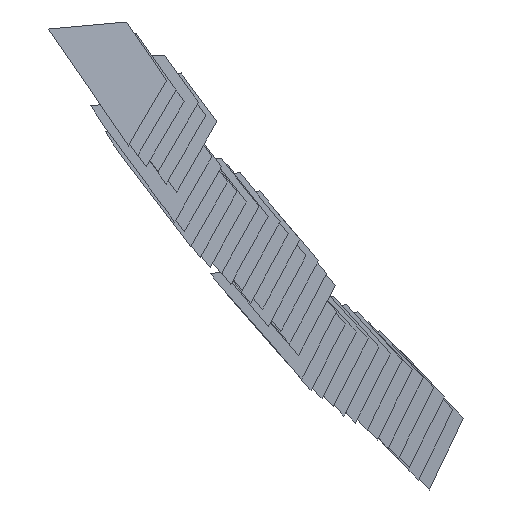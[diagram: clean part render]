
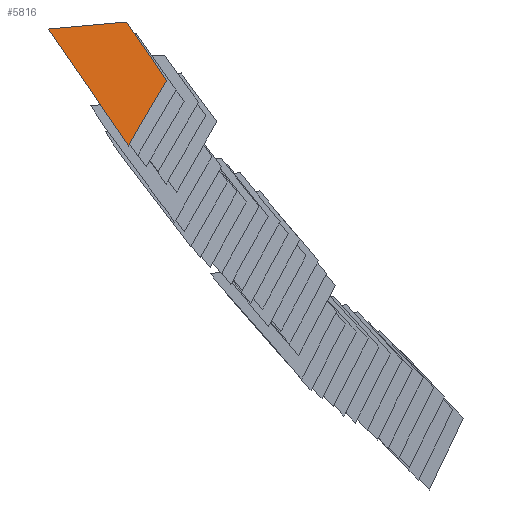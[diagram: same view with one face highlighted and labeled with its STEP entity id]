
A CAD part, front view. The second image highlights one B-rep face of the part: STEP entity #5816.
In plain terms, the highlighted free-form (B-spline) face has degree [1, 1] with [2, 2] control points.
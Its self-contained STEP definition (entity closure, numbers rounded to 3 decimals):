
#5816 = ADVANCED_FACE('',(#5817),#5830,.T.);
#5817 = FACE_BOUND('',#5818,.T.);
#5818 = EDGE_LOOP('',(#5819,#5840,#5854,#5868,#5882,#5896,#5910,#5924,
    #5938,#5952));
#5819 = ORIENTED_EDGE('',*,*,#5820,.T.);
#5820 = EDGE_CURVE('',#5821,#5823,#5825,.T.);
#5821 = VERTEX_POINT('',#5822);
#5822 = CARTESIAN_POINT('',(1093.617,-1568.996,
    1044.043));
#5823 = VERTEX_POINT('',#5824);
#5824 = CARTESIAN_POINT('',(1095.538,-1570.137,
    1041.242));
#5825 = SURFACE_CURVE('',#5826,(#5829),.PCURVE_S1.);
#5826 = B_SPLINE_CURVE_WITH_KNOTS('',1,(#5827,#5828),.UNSPECIFIED.,.F.,
  .F.,(2,2),(0.,3.583),.PIECEWISE_BEZIER_KNOTS.);
#5827 = CARTESIAN_POINT('',(1093.617,-1568.996,
    1044.043));
#5828 = CARTESIAN_POINT('',(1095.538,-1570.137,
    1041.242));
#5829 = PCURVE('',#5830,#5835);
#5830 = B_SPLINE_SURFACE_WITH_KNOTS('',1,1,(
    (#5831,#5832)
    ,(#5833,#5834
    )),.UNSPECIFIED.,.F.,.F.,.F.,(2,2),(2,2),(-5.385,
    3.739),(-3.523,3.807),
  .PIECEWISE_BEZIER_KNOTS.);
#5831 = CARTESIAN_POINT('',(1089.953,-1567.788,
    1046.116));
#5832 = CARTESIAN_POINT('',(1086.099,-1568.976,
    1039.996));
#5833 = CARTESIAN_POINT('',(1097.587,-1570.305,
    1041.796));
#5834 = CARTESIAN_POINT('',(1093.732,-1571.493,
    1035.676));
#5835 = DEFINITIONAL_REPRESENTATION('',(#5836),#5839);
#5836 = B_SPLINE_CURVE_WITH_KNOTS('',1,(#5837,#5838),.UNSPECIFIED.,.F.,
  .F.,(2,2),(0.,3.583),.PIECEWISE_BEZIER_KNOTS.);
#5837 = CARTESIAN_POINT('',(-1.006,-3.523));
#5838 = CARTESIAN_POINT('',(2.241,-2.01));
#5839 = ( GEOMETRIC_REPRESENTATION_CONTEXT(2) 
PARAMETRIC_REPRESENTATION_CONTEXT() REPRESENTATION_CONTEXT('2D SPACE',''
  ) );
#5840 = ORIENTED_EDGE('',*,*,#5841,.T.);
#5841 = EDGE_CURVE('',#5823,#5842,#5844,.T.);
#5842 = VERTEX_POINT('',#5843);
#5843 = CARTESIAN_POINT('',(1095.574,-1570.159,
    1041.188));
#5844 = SURFACE_CURVE('',#5845,(#5848),.PCURVE_S1.);
#5845 = B_SPLINE_CURVE_WITH_KNOTS('',1,(#5846,#5847),.UNSPECIFIED.,.F.,
  .F.,(2,2),(0.,0.069),.PIECEWISE_BEZIER_KNOTS.);
#5846 = CARTESIAN_POINT('',(1095.538,-1570.137,
    1041.242));
#5847 = CARTESIAN_POINT('',(1095.574,-1570.159,
    1041.188));
#5848 = PCURVE('',#5830,#5849);
#5849 = DEFINITIONAL_REPRESENTATION('',(#5850),#5853);
#5850 = B_SPLINE_CURVE_WITH_KNOTS('',1,(#5851,#5852),.UNSPECIFIED.,.F.,
  .F.,(2,2),(0.,0.069),.PIECEWISE_BEZIER_KNOTS.);
#5851 = CARTESIAN_POINT('',(2.241,-2.01));
#5852 = CARTESIAN_POINT('',(2.303,-1.98));
#5853 = ( GEOMETRIC_REPRESENTATION_CONTEXT(2) 
PARAMETRIC_REPRESENTATION_CONTEXT() REPRESENTATION_CONTEXT('2D SPACE',''
  ) );
#5854 = ORIENTED_EDGE('',*,*,#5855,.T.);
#5855 = EDGE_CURVE('',#5842,#5856,#5858,.T.);
#5856 = VERTEX_POINT('',#5857);
#5857 = CARTESIAN_POINT('',(1096.309,-1570.599,
    1040.102));
#5858 = SURFACE_CURVE('',#5859,(#5862),.PCURVE_S1.);
#5859 = B_SPLINE_CURVE_WITH_KNOTS('',1,(#5860,#5861),.UNSPECIFIED.,.F.,
  .F.,(2,2),(0.,1.383),.PIECEWISE_BEZIER_KNOTS.);
#5860 = CARTESIAN_POINT('',(1095.574,-1570.159,
    1041.188));
#5861 = CARTESIAN_POINT('',(1096.309,-1570.599,
    1040.102));
#5862 = PCURVE('',#5830,#5863);
#5863 = DEFINITIONAL_REPRESENTATION('',(#5864),#5867);
#5864 = B_SPLINE_CURVE_WITH_KNOTS('',1,(#5865,#5866),.UNSPECIFIED.,.F.,
  .F.,(2,2),(0.,1.383),.PIECEWISE_BEZIER_KNOTS.);
#5865 = CARTESIAN_POINT('',(2.303,-1.98));
#5866 = CARTESIAN_POINT('',(3.554,-1.389));
#5867 = ( GEOMETRIC_REPRESENTATION_CONTEXT(2) 
PARAMETRIC_REPRESENTATION_CONTEXT() REPRESENTATION_CONTEXT('2D SPACE',''
  ) );
#5868 = ORIENTED_EDGE('',*,*,#5869,.T.);
#5869 = EDGE_CURVE('',#5856,#5870,#5872,.T.);
#5870 = VERTEX_POINT('',#5871);
#5871 = CARTESIAN_POINT('',(1095.622,-1570.829,
    1038.95));
#5872 = SURFACE_CURVE('',#5873,(#5876),.PCURVE_S1.);
#5873 = B_SPLINE_CURVE_WITH_KNOTS('',1,(#5874,#5875),.UNSPECIFIED.,.F.,
  .F.,(2,2),(0.,1.361),.PIECEWISE_BEZIER_KNOTS.);
#5874 = CARTESIAN_POINT('',(1096.309,-1570.599,
    1040.102));
#5875 = CARTESIAN_POINT('',(1095.622,-1570.829,
    1038.95));
#5876 = PCURVE('',#5830,#5877);
#5877 = DEFINITIONAL_REPRESENTATION('',(#5878),#5881);
#5878 = B_SPLINE_CURVE_WITH_KNOTS('',1,(#5879,#5880),.UNSPECIFIED.,.F.,
  .F.,(2,2),(0.,1.361),.PIECEWISE_BEZIER_KNOTS.);
#5879 = CARTESIAN_POINT('',(3.554,-1.389));
#5880 = CARTESIAN_POINT('',(3.587,-0.029));
#5881 = ( GEOMETRIC_REPRESENTATION_CONTEXT(2) 
PARAMETRIC_REPRESENTATION_CONTEXT() REPRESENTATION_CONTEXT('2D SPACE',''
  ) );
#5882 = ORIENTED_EDGE('',*,*,#5883,.T.);
#5883 = EDGE_CURVE('',#5870,#5884,#5886,.T.);
#5884 = VERTEX_POINT('',#5885);
#5885 = CARTESIAN_POINT('',(1094.629,-1571.174,
    1037.242));
#5886 = SURFACE_CURVE('',#5887,(#5890),.PCURVE_S1.);
#5887 = B_SPLINE_CURVE_WITH_KNOTS('',1,(#5888,#5889),.UNSPECIFIED.,.F.,
  .F.,(2,2),(0.,2.006),.PIECEWISE_BEZIER_KNOTS.);
#5888 = CARTESIAN_POINT('',(1095.622,-1570.829,
    1038.95));
#5889 = CARTESIAN_POINT('',(1094.629,-1571.174,
    1037.242));
#5890 = PCURVE('',#5830,#5891);
#5891 = DEFINITIONAL_REPRESENTATION('',(#5892),#5895);
#5892 = B_SPLINE_CURVE_WITH_KNOTS('',1,(#5893,#5894),.UNSPECIFIED.,.F.,
  .F.,(2,2),(0.,2.006),.PIECEWISE_BEZIER_KNOTS.);
#5893 = CARTESIAN_POINT('',(3.587,-0.029));
#5894 = CARTESIAN_POINT('',(3.66,1.976));
#5895 = ( GEOMETRIC_REPRESENTATION_CONTEXT(2) 
PARAMETRIC_REPRESENTATION_CONTEXT() REPRESENTATION_CONTEXT('2D SPACE',''
  ) );
#5896 = ORIENTED_EDGE('',*,*,#5897,.T.);
#5897 = EDGE_CURVE('',#5884,#5898,#5900,.T.);
#5898 = VERTEX_POINT('',#5899);
#5899 = CARTESIAN_POINT('',(1093.732,-1571.493,
    1035.676));
#5900 = SURFACE_CURVE('',#5901,(#5904),.PCURVE_S1.);
#5901 = B_SPLINE_CURVE_WITH_KNOTS('',1,(#5902,#5903),.UNSPECIFIED.,.F.,
  .F.,(2,2),(0.,1.832),.PIECEWISE_BEZIER_KNOTS.);
#5902 = CARTESIAN_POINT('',(1094.629,-1571.174,
    1037.242));
#5903 = CARTESIAN_POINT('',(1093.732,-1571.493,
    1035.676));
#5904 = PCURVE('',#5830,#5905);
#5905 = DEFINITIONAL_REPRESENTATION('',(#5906),#5909);
#5906 = B_SPLINE_CURVE_WITH_KNOTS('',1,(#5907,#5908),.UNSPECIFIED.,.F.,
  .F.,(2,2),(0.,1.832),.PIECEWISE_BEZIER_KNOTS.);
#5907 = CARTESIAN_POINT('',(3.66,1.976));
#5908 = CARTESIAN_POINT('',(3.739,3.807));
#5909 = ( GEOMETRIC_REPRESENTATION_CONTEXT(2) 
PARAMETRIC_REPRESENTATION_CONTEXT() REPRESENTATION_CONTEXT('2D SPACE',''
  ) );
#5910 = ORIENTED_EDGE('',*,*,#5911,.T.);
#5911 = EDGE_CURVE('',#5898,#5912,#5914,.T.);
#5912 = VERTEX_POINT('',#5913);
#5913 = CARTESIAN_POINT('',(1091.728,-1570.291,
    1038.638));
#5914 = SURFACE_CURVE('',#5915,(#5918),.PCURVE_S1.);
#5915 = B_SPLINE_CURVE_WITH_KNOTS('',1,(#5916,#5917),.UNSPECIFIED.,.F.,
  .F.,(2,2),(0.,3.773),.PIECEWISE_BEZIER_KNOTS.);
#5916 = CARTESIAN_POINT('',(1093.732,-1571.493,
    1035.676));
#5917 = CARTESIAN_POINT('',(1091.728,-1570.291,
    1038.638));
#5918 = PCURVE('',#5830,#5919);
#5919 = DEFINITIONAL_REPRESENTATION('',(#5920),#5923);
#5920 = B_SPLINE_CURVE_WITH_KNOTS('',1,(#5921,#5922),.UNSPECIFIED.,.F.,
  .F.,(2,2),(0.,3.773),.PIECEWISE_BEZIER_KNOTS.);
#5921 = CARTESIAN_POINT('',(3.739,3.807));
#5922 = CARTESIAN_POINT('',(0.329,2.193));
#5923 = ( GEOMETRIC_REPRESENTATION_CONTEXT(2) 
PARAMETRIC_REPRESENTATION_CONTEXT() REPRESENTATION_CONTEXT('2D SPACE',''
  ) );
#5924 = ORIENTED_EDGE('',*,*,#5925,.T.);
#5925 = EDGE_CURVE('',#5912,#5926,#5928,.T.);
#5926 = VERTEX_POINT('',#5927);
#5927 = CARTESIAN_POINT('',(1091.706,-1570.277,
    1038.671));
#5928 = SURFACE_CURVE('',#5929,(#5932),.PCURVE_S1.);
#5929 = B_SPLINE_CURVE_WITH_KNOTS('',1,(#5930,#5931),.UNSPECIFIED.,.F.,
  .F.,(2,2),(0.,0.042),.PIECEWISE_BEZIER_KNOTS.);
#5930 = CARTESIAN_POINT('',(1091.728,-1570.291,
    1038.638));
#5931 = CARTESIAN_POINT('',(1091.706,-1570.277,
    1038.671));
#5932 = PCURVE('',#5830,#5933);
#5933 = DEFINITIONAL_REPRESENTATION('',(#5934),#5937);
#5934 = B_SPLINE_CURVE_WITH_KNOTS('',1,(#5935,#5936),.UNSPECIFIED.,.F.,
  .F.,(2,2),(0.,0.042),.PIECEWISE_BEZIER_KNOTS.);
#5935 = CARTESIAN_POINT('',(0.329,2.193));
#5936 = CARTESIAN_POINT('',(0.291,2.175));
#5937 = ( GEOMETRIC_REPRESENTATION_CONTEXT(2) 
PARAMETRIC_REPRESENTATION_CONTEXT() REPRESENTATION_CONTEXT('2D SPACE',''
  ) );
#5938 = ORIENTED_EDGE('',*,*,#5939,.T.);
#5939 = EDGE_CURVE('',#5926,#5940,#5942,.T.);
#5940 = VERTEX_POINT('',#5941);
#5941 = CARTESIAN_POINT('',(1088.348,-1568.283,
    1043.567));
#5942 = SURFACE_CURVE('',#5943,(#5946),.PCURVE_S1.);
#5943 = B_SPLINE_CURVE_WITH_KNOTS('',1,(#5944,#5945),.UNSPECIFIED.,.F.,
  .F.,(2,2),(0.,6.263),.PIECEWISE_BEZIER_KNOTS.);
#5944 = CARTESIAN_POINT('',(1091.706,-1570.277,
    1038.671));
#5945 = CARTESIAN_POINT('',(1088.348,-1568.283,
    1043.567));
#5946 = PCURVE('',#5830,#5947);
#5947 = DEFINITIONAL_REPRESENTATION('',(#5948),#5951);
#5948 = B_SPLINE_CURVE_WITH_KNOTS('',1,(#5949,#5950),.UNSPECIFIED.,.F.,
  .F.,(2,2),(0.,6.263),.PIECEWISE_BEZIER_KNOTS.);
#5949 = CARTESIAN_POINT('',(0.291,2.175));
#5950 = CARTESIAN_POINT('',(-5.385,-0.47));
#5951 = ( GEOMETRIC_REPRESENTATION_CONTEXT(2) 
PARAMETRIC_REPRESENTATION_CONTEXT() REPRESENTATION_CONTEXT('2D SPACE',''
  ) );
#5952 = ORIENTED_EDGE('',*,*,#5953,.T.);
#5953 = EDGE_CURVE('',#5940,#5821,#5954,.T.);
#5954 = SURFACE_CURVE('',#5955,(#5958),.PCURVE_S1.);
#5955 = B_SPLINE_CURVE_WITH_KNOTS('',1,(#5956,#5957),.UNSPECIFIED.,.F.,
  .F.,(2,2),(0.,5.338),.PIECEWISE_BEZIER_KNOTS.);
#5956 = CARTESIAN_POINT('',(1088.348,-1568.283,
    1043.567));
#5957 = CARTESIAN_POINT('',(1093.617,-1568.996,
    1044.043));
#5958 = PCURVE('',#5830,#5959);
#5959 = DEFINITIONAL_REPRESENTATION('',(#5960),#5963);
#5960 = B_SPLINE_CURVE_WITH_KNOTS('',1,(#5961,#5962),.UNSPECIFIED.,.F.,
  .F.,(2,2),(0.,5.338),.PIECEWISE_BEZIER_KNOTS.);
#5961 = CARTESIAN_POINT('',(-5.385,-0.47));
#5962 = CARTESIAN_POINT('',(-1.006,-3.523));
#5963 = ( GEOMETRIC_REPRESENTATION_CONTEXT(2) 
PARAMETRIC_REPRESENTATION_CONTEXT() REPRESENTATION_CONTEXT('2D SPACE',''
  ) );
